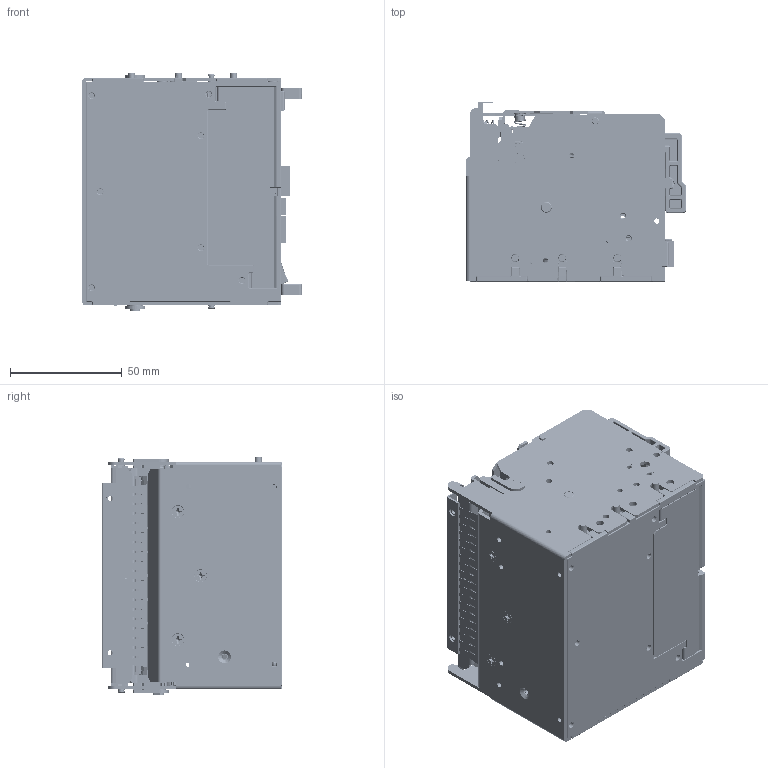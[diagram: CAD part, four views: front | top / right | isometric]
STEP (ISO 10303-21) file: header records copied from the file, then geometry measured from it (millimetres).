
FILE_DESCRIPTION (( 'STEP AP203' ), '1' );
FILE_NAME ('424056A-Q (REV c).STEP', '2026-10-06T13:30:28', ( '' ), ( '' ), 'SwSTEP 2.0', 'SolidWorks 2025', '' );
FILE_SCHEMA (( 'CONFIG_CONTROL_DESIGN' ));
Length unit declared in the file: inch
Products named in the file (57): 424056-Q6 (REV b); 424013-SHF-3 (REV A) Cutter Knife Lever Shaft; Gear 12T, Motor_Gear Blank; 424056-Q3 (REV c); 424143 (REV N); LeeSpring-LC 020BD 05M_COMPRESS4; 424056-Q7 (REV b); 424129-SP (SA) (rev a); 97395A701_97395A701; LeeSpring-LC 020BD 05M_COMPRESS 2; 424056-Q8 (REV a); 424014-54T (REV B)_Gear Blank; 424068-CUT (REV D); 424014-26T (REV B); PM25L-024-UBU2 (SA); 424012-X-PLT-(SA) (REV A); 4-40 x 1l8 Under Cut Flat Head Screw_91771A103; 424056-Z-RP11 (REV b1); 424014-46T18T (REV B)_Gear Blank; 424014-54T26TC (REV B)_54T26T Roller; 423445Z2 (REV H); 424142-X-(SA) (REV C); 424056-Q9 (REV a); Printhead-KD2023-DF10A; 424013-SHF-1 (REV A); 423496-Z (REV H); Phillips Rounded No 4 1l4 Lg_99461A110; 424056A-Q (REV c); 424056-Q3M (REV c)_mirror; 424056-Q2 (REV f); 424012-PG-5 (REV H); PM25L-024-UBU2; 423534-X1; 423760-L3B-Z (REV D); 423534-X-(SA) (REV A); FHS-4-40 -.25LG_91771A106; ZR46_No power Cord; 424056-Q1 (REV e); 424056-Q11 (REV b); 424056-Q10 (REV c)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
Assembly tree (87 placements, depth 4):
  424056A-Q (REV c)
    424012-X-PLT-(SA) (REV A)
      424012-PG-5 (REV H)
      423760-L3B-Z (REV D)
      424014-26T (REV B)
      424012-BRG-1 (REV B)  x2
    424142-X-(SA) (REV C)
      424143 (REV N)
      423496-Z (REV H)
      424068-CUT (REV D)
      423496-Z-SP (REV D)_94639A496
      424013-SHF-1 (REV A)
      423456Z2 (REV B)
      Printhead-KD2023-DF10A
      Philips Pan Head Screw 4-40 1I4 LG. SS_91772A108
      WASHER SCREW SIZE 4 OD .312 ID .125_98017A610
      LeeSpring-LC 020BD 05M_COMPRESS4  x3
      LeeSpring-LC 020BD 05M_COMPRESS 2
      No 4 -Screw Split Lock Washer_91102A720
      4-40 x 1l8 Under Cut Flat Head Screw_91771A103  x3
      423534-X-(SA) (REV A)
        423534-X1  x2
        423534-X2  x19
    424056-Z-RP4-(SA) (REV A)
      424056-Q8 (REV a)
      PM25L-024-UBU2 (SA)
        PM25L-024-UBU2
        Gear 12T, Motor_Gear Blank
    424056-Q1 (SA) (REV b)
      424056-Q1 (REV e)
      SQ OPTO-C-U  x2
      424014-CS-27T (REV a)_Gear Blank
      424056-Q3 (REV c)
      424056-Q3M (REV c)_mirror
      424056-Q9 (REV a)  x2
    424129-SP (SA) (rev a)
      424129-SP1 (REV b)
      424129-SP2 (REV a)
      SQ OPTO-C-U
      Phillips Rounded No 4 1l4 Lg_99461A110
    424056-Q3 (SA) (REV C)
      424056-Q6 (REV b)
      PM25L-024-UBU2 (SA)
        PM25L-024-UBU2
        Gear 12T, Motor_Gear Blank
      424014-54T26TC (REV B)_54T26T Roller
      424014-54T (REV B)_Gear Blank
      97395A701_97395A701
      424056-Q11 (REV b)
    423445Z2 (REV H)
    424056-Q2 (REV f)
    424013-SHF-3 (REV A) Cutter Knife Lever Shaft
    424056-Q10 (REV c)
    424014-27T (REV B)_Gear Blank
    424014-46T18T (REV B)_Gear Blank
    424014-60T20T (REV B)_Gear Blank
    ZR46_No power Cord
    424056-Q7 (REV b)
    424056-Z-RP11 (REV b1)
    FHS-4-40 -.25LG_91771A106  x3
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Bounding box: 98.04 x 80.32 x 106.15 mm (x, y, z)
Volume: 210305.7 mm3; surface area: 248579.4 mm2
Topology: 150 solids, 150 shells, 16398 faces, 42289 edges, 26277 vertices
Faces by surface type: plane 5944, cylinder 4660, bspline 3286, torus 1144, cone 1126, sphere 238
Entity records: 539607 total; most frequent: CARTESIAN_POINT 191919, ORIENTED_EDGE 76938, DIRECTION 63966, EDGE_CURVE 38469, VERTEX_POINT 23977, AXIS2_PLACEMENT_3D 22813, LINE 18340, VECTOR 18340
